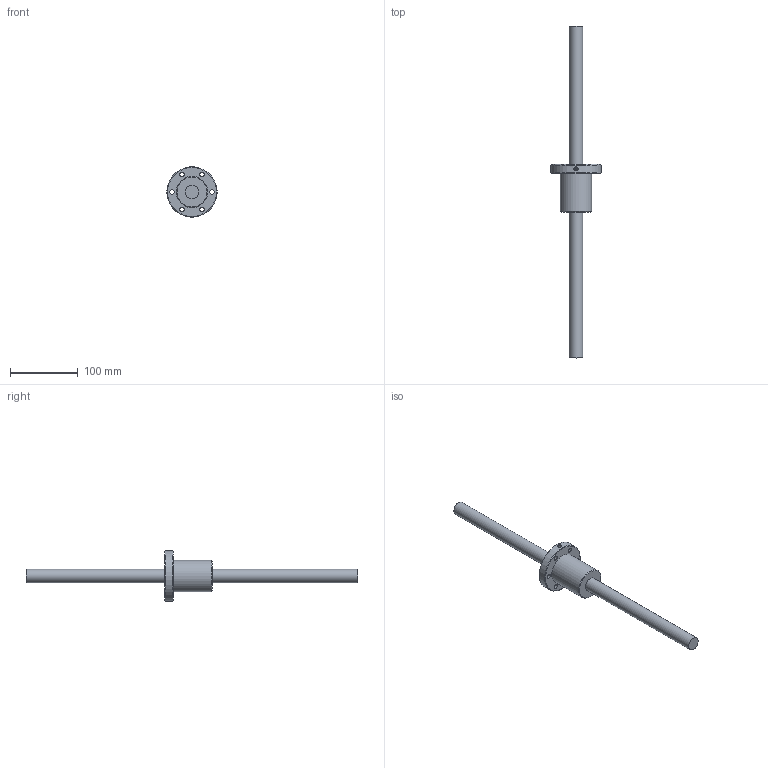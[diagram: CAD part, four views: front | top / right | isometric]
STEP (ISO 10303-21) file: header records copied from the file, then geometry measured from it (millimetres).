
FILE_DESCRIPTION (( 'STEP AP203' ), '1' );
FILE_NAME ('SFV02020-1.8.STEP', '2023-08-17T00:37:46', ( '' ), ( '' ), 'SwSTEP 2.0', 'SolidWorks 2022', '' );
FILE_SCHEMA (( 'CONFIG_CONTROL_DESIGN' ));
Length unit declared in the file: millimetre
Products named in the file (1): SFV02020-1.8
Bounding box: 74 x 489 x 74 mm (x, y, z)
Volume: 276764.8 mm3; surface area: 56625 mm2
Topology: 2 solids, 2 shells, 34 faces, 72 edges, 49 vertices
Faces by surface type: cylinder 18, plane 12, cone 3, bspline 1
Full cylindrical faces by diameter (mm): 2 x1, 5 x1, 6.6 x6, 11 x6, 20 x2, 46 x1, 74 x1
Entity records: 1141 total; most frequent: CARTESIAN_POINT 417, DIRECTION 142, ORIENTED_EDGE 80, EDGE_LOOP 80, AXIS2_PLACEMENT_3D 71, FACE_OUTER_BOUND 53, EDGE_CURVE 40, VERTEX_POINT 40
